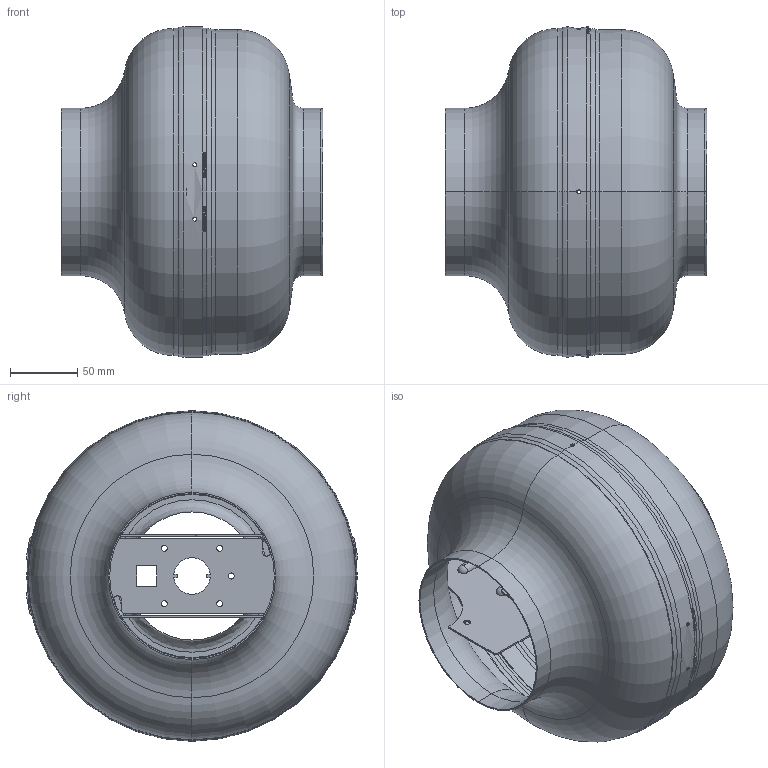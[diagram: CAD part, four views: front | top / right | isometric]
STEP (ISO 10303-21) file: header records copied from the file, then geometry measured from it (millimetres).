
FILE_DESCRIPTION (( 'STEP AP203' ), '1' );
FILE_NAME ('143353-00_RS125L20.STEP', '2018-03-06T05:31:32', ( '' ), ( '' ), 'SwSTEP 2.0', 'SolidWorks 2012', '' );
FILE_SCHEMA (( 'CONFIG_CONTROL_DESIGN' ));
Length unit declared in the file: millimetre
Products named in the file (1): 143353-00_RS125L20
Bounding box: 194 x 245.76 x 245 mm (x, y, z)
Surface area: 368630.8 mm2 (no closed solid volume)
Topology: 0 solids, 8 shells, 176 faces, 602 edges, 409 vertices
Faces by surface type: cylinder 80, plane 46, torus 36, cone 8, sphere 4, bspline 2
Entity records: 7888 total; most frequent: CARTESIAN_POINT 2745, DIRECTION 1051, ORIENTED_EDGE 980, EDGE_CURVE 594, VERTEX_POINT 405, AXIS2_PLACEMENT_3D 392, LINE 267, VECTOR 267
